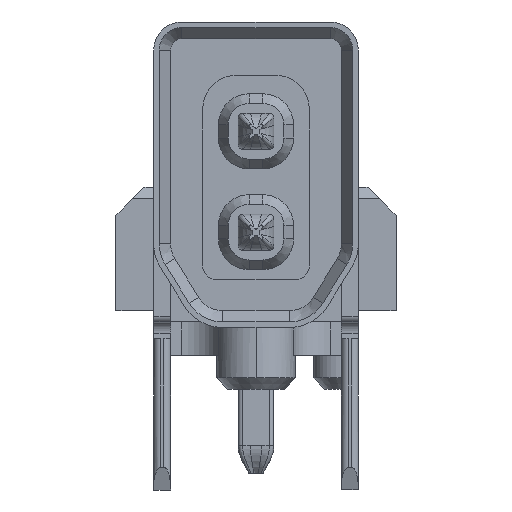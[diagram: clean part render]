
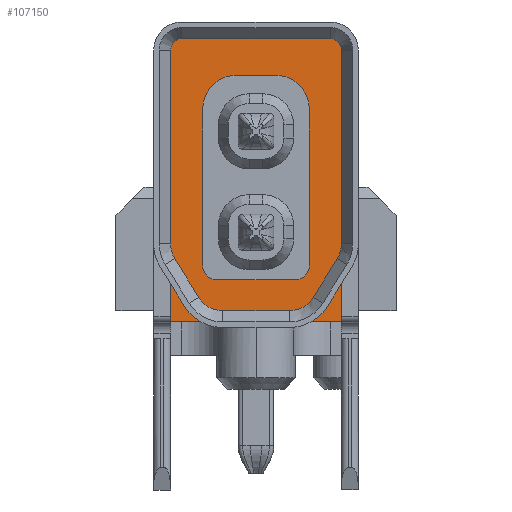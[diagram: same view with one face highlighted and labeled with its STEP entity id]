
A CAD part, front view. The second image highlights one B-rep face of the part: STEP entity #107150.
In plain terms, the highlighted planar face has unit normal (0, -1, 0) as drawn and (0, 0, -1) by its records, which use the part's own axes.
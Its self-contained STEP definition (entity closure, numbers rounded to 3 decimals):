
#14480=CARTESIAN_POINT('',(2.031,0.65,4.5));
#14490=VERTEX_POINT('',#14480);
#14520=CARTESIAN_POINT('',(0.,0.65,4.5));
#14530=DIRECTION('',(-1.,0.,0.));
#14540=VECTOR('',#14530,1.);
#14550=LINE('',#14520,#14540);
#14560=CARTESIAN_POINT('',(-0.769,0.65,4.5));
#14570=VERTEX_POINT('',#14560);
#14580=EDGE_CURVE('',#14490,#14570,#14550,.T.);
#15240=CARTESIAN_POINT('',(-1.369,-0.65,4.5));
#15250=VERTEX_POINT('',#15240);
#15330=CARTESIAN_POINT('',(-1.369,0.05,4.5));
#15340=VERTEX_POINT('',#15330);
#15370=CARTESIAN_POINT('',(-1.369,-0.3,4.5));
#15380=DIRECTION('',(0.,1.,0.));
#15390=VECTOR('',#15380,1.);
#15400=LINE('',#15370,#15390);
#15410=EDGE_CURVE('',#15250,#15340,#15400,.T.);
#18710=CARTESIAN_POINT('',(-0.769,-1.25,4.5));
#18720=VERTEX_POINT('',#18710);
#18770=CARTESIAN_POINT('',(-0.769,-0.65,4.5));
#18780=DIRECTION('',(0.,0.,-1.));
#18790=DIRECTION('',(-1.,0.,0.));
#18800=AXIS2_PLACEMENT_3D('',#18770,#18780,#18790);
#18810=CIRCLE('',#18800,0.6);
#18820=EDGE_CURVE('',#18720,#15250,#18810,.T.);
#27180=CARTESIAN_POINT('',(2.031,0.4,4.5));
#27190=DIRECTION('',(0.,0.,-1.));
#27200=DIRECTION('',(-1.,0.,0.));
#27210=AXIS2_PLACEMENT_3D('',#27180,#27190,#27200);
#27220=CIRCLE('',#27210,0.25);
#27230=CARTESIAN_POINT('',(2.281,0.4,4.5));
#27240=VERTEX_POINT('',#27230);
#27250=EDGE_CURVE('',#14490,#27240,#27220,.T.);
#29960=CARTESIAN_POINT('',(-1.819,1.225,4.5));
#29970=VERTEX_POINT('',#29960);
#30000=CARTESIAN_POINT('',(0.,1.225,4.5));
#30010=DIRECTION('',(-1.,0.,0.));
#30020=VECTOR('',#30010,1.);
#30030=LINE('',#30000,#30020);
#30040=CARTESIAN_POINT('',(3.031,1.225,4.5));
#30050=VERTEX_POINT('',#30040);
#30060=EDGE_CURVE('',#30050,#29970,#30030,.T.);
#31790=CARTESIAN_POINT('',(-0.769,0.05,4.5));
#31800=DIRECTION('',(0.,0.,1.));
#31810=DIRECTION('',(-1.,0.,0.));
#31820=AXIS2_PLACEMENT_3D('',#31790,#31800,#31810);
#31830=CIRCLE('',#31820,0.6);
#31840=EDGE_CURVE('',#14570,#15340,#31830,.T.);
#45210=CARTESIAN_POINT('',(3.031,-0.3,4.5));
#45220=DIRECTION('',(0.,-1.,0.));
#45230=VECTOR('',#45220,1.);
#45240=LINE('',#45210,#45230);
#45250=CARTESIAN_POINT('',(3.031,-1.825,4.5));
#45260=VERTEX_POINT('',#45250);
#45270=EDGE_CURVE('',#30050,#45260,#45240,.T.);
#49830=CARTESIAN_POINT('',(2.031,-1.25,4.5));
#49840=VERTEX_POINT('',#49830);
#49890=CARTESIAN_POINT('',(0.,-1.25,4.5));
#49900=DIRECTION('',(1.,0.,0.));
#49910=VECTOR('',#49900,1.);
#49920=LINE('',#49890,#49910);
#49930=EDGE_CURVE('',#18720,#49840,#49920,.T.);
#51680=CARTESIAN_POINT('',(2.031,-1.,4.5));
#51690=DIRECTION('',(0.,0.,-1.));
#51700=DIRECTION('',(-1.,0.,0.));
#51710=AXIS2_PLACEMENT_3D('',#51680,#51690,#51700);
#51720=CIRCLE('',#51710,0.25);
#51730=CARTESIAN_POINT('',(2.281,-1.,4.5));
#51740=VERTEX_POINT('',#51730);
#51750=EDGE_CURVE('',#51740,#49840,#51720,.T.);
#54370=CARTESIAN_POINT('',(2.281,-0.3,4.5));
#54380=DIRECTION('',(0.,1.,0.));
#54390=VECTOR('',#54380,1.);
#54400=LINE('',#54370,#54390);
#54410=EDGE_CURVE('',#51740,#27240,#54400,.T.);
#106640=CARTESIAN_POINT('',(3.161,-0.3,4.5));
#106650=DIRECTION('',(-0.,0.,-1.));
#106660=DIRECTION('',(0.,-1.,0.));
#106670=AXIS2_PLACEMENT_3D('',#106640,#106650,#106660);
#106680=PLANE('',#106670);
#106690=ORIENTED_EDGE('',*,*,#18820,.F.);
#106700=ORIENTED_EDGE('',*,*,#15410,.F.);
#106710=ORIENTED_EDGE('',*,*,#31840,.T.);
#106720=ORIENTED_EDGE('',*,*,#14580,.T.);
#106730=ORIENTED_EDGE('',*,*,#27250,.F.);
#106740=ORIENTED_EDGE('',*,*,#54410,.T.);
#106750=ORIENTED_EDGE('',*,*,#51750,.F.);
#106760=ORIENTED_EDGE('',*,*,#49930,.T.);
#106770=EDGE_LOOP('',(#106760,#106750,#106740,#106730,#106720,#106710,
#106700,#106690));
#106780=FACE_BOUND('',#106770,.T.);
#106790=CARTESIAN_POINT('',(0.,-1.825,4.5));
#106800=DIRECTION('',(-1.,0.,0.));
#106810=VECTOR('',#106800,1.);
#106820=LINE('',#106790,#106810);
#106830=CARTESIAN_POINT('',(-1.819,-1.825,4.5));
#106840=VERTEX_POINT('',#106830);
#106850=EDGE_CURVE('',#45260,#106840,#106820,.T.);
#106860=ORIENTED_EDGE('',*,*,#106850,.T.);
#106870=ORIENTED_EDGE('',*,*,#45270,.T.);
#106880=ORIENTED_EDGE('',*,*,#30060,.F.);
#106890=CARTESIAN_POINT('',(-1.819,1.025,4.5));
#106900=DIRECTION('',(0.,0.,1.));
#106910=DIRECTION('',(1.,0.,0.));
#106920=AXIS2_PLACEMENT_3D('',#106890,#106900,#106910);
#106930=CIRCLE('',#106920,0.2);
#106940=CARTESIAN_POINT('',(-2.019,1.025,4.5));
#106950=VERTEX_POINT('',#106940);
#106960=EDGE_CURVE('',#29970,#106950,#106930,.T.);
#106970=ORIENTED_EDGE('',*,*,#106960,.F.);
#106980=CARTESIAN_POINT('',(-2.019,-0.3,4.5));
#106990=DIRECTION('',(0.,-1.,0.));
#107000=VECTOR('',#106990,1.);
#107010=LINE('',#106980,#107000);
#107020=CARTESIAN_POINT('',(-2.019,-1.625,4.5));
#107030=VERTEX_POINT('',#107020);
#107040=EDGE_CURVE('',#106950,#107030,#107010,.T.);
#107050=ORIENTED_EDGE('',*,*,#107040,.F.);
#107060=CARTESIAN_POINT('',(-1.819,-1.625,4.5));
#107070=DIRECTION('',(0.,0.,-1.));
#107080=DIRECTION('',(-1.,0.,0.));
#107090=AXIS2_PLACEMENT_3D('',#107060,#107070,#107080);
#107100=CIRCLE('',#107090,0.2);
#107110=EDGE_CURVE('',#106840,#107030,#107100,.T.);
#107120=ORIENTED_EDGE('',*,*,#107110,.T.);
#107130=EDGE_LOOP('',(#107120,#107050,#106970,#106880,#106870,#106860));
#107140=FACE_OUTER_BOUND('',#107130,.T.);
#107150=ADVANCED_FACE('',(#106780,#107140),#106680,.T.);
